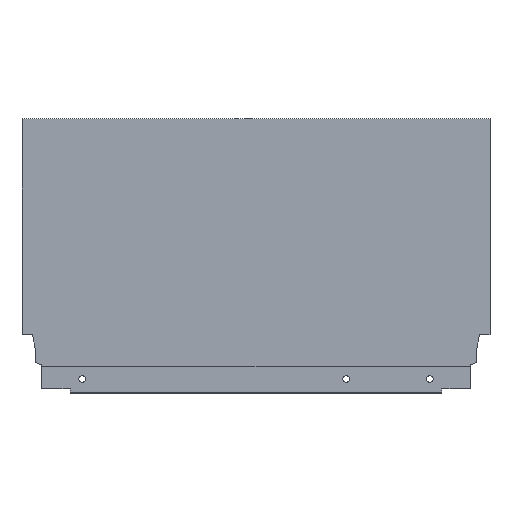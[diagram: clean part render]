
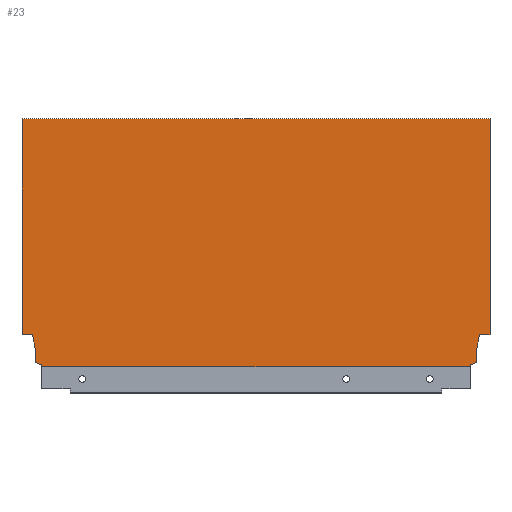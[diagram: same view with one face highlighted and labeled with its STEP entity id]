
A CAD part, top view. The second image highlights one B-rep face of the part: STEP entity #23.
In plain terms, the highlighted planar face has unit normal (0, 0, 1).
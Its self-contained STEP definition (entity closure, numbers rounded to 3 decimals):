
#23 = ADVANCED_FACE ( 'NONE', ( #969 ), #559, .T. ) ;
#139 = EDGE_CURVE ( 'NONE', #646, #650, #1512, .T. ) ;
#141 = EDGE_CURVE ( 'NONE', #654, #662, #1505, .T. ) ;
#143 = EDGE_CURVE ( 'NONE', #662, #663, #1394, .T. ) ;
#144 = EDGE_CURVE ( 'NONE', #650, #654, #1390, .T. ) ;
#145 = EDGE_CURVE ( 'NONE', #663, #645, #1386, .T. ) ;
#146 = EDGE_CURVE ( 'NONE', #645, #644, #1388, .T. ) ;
#147 = EDGE_CURVE ( 'NONE', #646, #668, #1384, .T. ) ;
#148 = EDGE_CURVE ( 'NONE', #644, #651, #1497, .T. ) ;
#149 = EDGE_CURVE ( 'NONE', #670, #664, #1382, .T. ) ;
#150 = EDGE_CURVE ( 'NONE', #664, #649, #1317, .T. ) ;
#152 = EDGE_CURVE ( 'NONE', #649, #656, #1321, .T. ) ;
#154 = EDGE_CURVE ( 'NONE', #656, #668, #790, .T. ) ;
#156 = EDGE_CURVE ( 'NONE', #657, #651, #787, .T. ) ;
#167 = EDGE_CURVE ( 'NONE', #657, #670, #1381, .T. ) ;
#205 = AXIS2_PLACEMENT_3D ( 'NONE', #556, #550, #549 ) ;
#329 = DIRECTION ( 'NONE',  ( 0., 1., 0. ) ) ;
#330 = CARTESIAN_POINT ( 'NONE',  ( -297.996, 1.146, 7.5 ) ) ;
#549 = DIRECTION ( 'NONE',  ( 1., 0., 0. ) ) ;
#550 = DIRECTION ( 'NONE',  ( 0., 0., 1. ) ) ;
#556 = CARTESIAN_POINT ( 'NONE',  ( -311., 0., 7.5 ) ) ;
#559 = PLANE ( 'NONE',  #205 ) ;
#644 = VERTEX_POINT ( 'NONE', #1533 ) ;
#645 = VERTEX_POINT ( 'NONE', #1532 ) ;
#646 = VERTEX_POINT ( 'NONE', #1540 ) ;
#649 = VERTEX_POINT ( 'NONE', #1528 ) ;
#650 = VERTEX_POINT ( 'NONE', #1526 ) ;
#651 = VERTEX_POINT ( 'NONE', #1523 ) ;
#654 = VERTEX_POINT ( 'NONE', #1519 ) ;
#656 = VERTEX_POINT ( 'NONE', #824 ) ;
#657 = VERTEX_POINT ( 'NONE', #823 ) ;
#662 = VERTEX_POINT ( 'NONE', #809 ) ;
#663 = VERTEX_POINT ( 'NONE', #807 ) ;
#664 = VERTEX_POINT ( 'NONE', #799 ) ;
#668 = VERTEX_POINT ( 'NONE', #819 ) ;
#670 = VERTEX_POINT ( 'NONE', #816 ) ;
#771 = VECTOR ( 'NONE', #329, 1000. ) ;
#785 = VECTOR ( 'NONE', #923, 1000. ) ;
#786 = VECTOR ( 'NONE', #921, 1000. ) ;
#787 = LINE ( 'NONE', #922, #786 ) ;
#790 = LINE ( 'NONE', #924, #785 ) ;
#799 = CARTESIAN_POINT ( 'NONE',  ( -302.1, 2.64, 7.5 ) ) ;
#807 = CARTESIAN_POINT ( 'NONE',  ( -8.9, 10.765, 7.5 ) ) ;
#809 = CARTESIAN_POINT ( 'NONE',  ( -7.06, 21.2, 7.5 ) ) ;
#816 = CARTESIAN_POINT ( 'NONE',  ( -297.996, 1.146, 7.5 ) ) ;
#819 = CARTESIAN_POINT ( 'NONE',  ( -311., 21.2, 7.5 ) ) ;
#823 = CARTESIAN_POINT ( 'NONE',  ( -297.996, 0., 7.5 ) ) ;
#824 = CARTESIAN_POINT ( 'NONE',  ( -303.94, 21.2, 7.5 ) ) ;
#880 = CARTESIAN_POINT ( 'NONE',  ( -8.9, 2.64, 7.5 ) ) ;
#881 = DIRECTION ( 'NONE',  ( 0., -1., 0. ) ) ;
#885 = CARTESIAN_POINT ( 'NONE',  ( -8.9, 10.765, 7.5 ) ) ;
#886 = DIRECTION ( 'NONE',  ( 0., -1., 0. ) ) ;
#887 = CARTESIAN_POINT ( 'NONE',  ( 0., 0., 7.5 ) ) ;
#888 = DIRECTION ( 'NONE',  ( -0.174, -0.985, 0. ) ) ;
#889 = CARTESIAN_POINT ( 'NONE',  ( -7.06, 21.2, 7.5 ) ) ;
#894 = DIRECTION ( 'NONE',  ( -1., 0., 0. ) ) ;
#895 = CARTESIAN_POINT ( 'NONE',  ( -13.004, 1.146, 7.5 ) ) ;
#898 = DIRECTION ( 'NONE',  ( 0., -1., 0. ) ) ;
#900 = CARTESIAN_POINT ( 'NONE',  ( 0., 21.2, 7.5 ) ) ;
#901 = DIRECTION ( 'NONE',  ( 1., 0., 0. ) ) ;
#902 = CARTESIAN_POINT ( 'NONE',  ( -311., 164.7, 7.5 ) ) ;
#921 = DIRECTION ( 'NONE',  ( 1., 0., 0. ) ) ;
#922 = CARTESIAN_POINT ( 'NONE',  ( -311., 0., 7.5 ) ) ;
#923 = DIRECTION ( 'NONE',  ( -1., 0., 0. ) ) ;
#924 = CARTESIAN_POINT ( 'NONE',  ( -316., 21.2, 7.5 ) ) ;
#928 = DIRECTION ( 'NONE',  ( -0.174, 0.985, 0. ) ) ;
#929 = CARTESIAN_POINT ( 'NONE',  ( -303.94, 21.2, 7.5 ) ) ;
#932 = DIRECTION ( 'NONE',  ( 0., 1., 0. ) ) ;
#933 = CARTESIAN_POINT ( 'NONE',  ( -302.1, 10.765, 7.5 ) ) ;
#934 = DIRECTION ( 'NONE',  ( -0.94, 0.342, 0. ) ) ;
#935 = CARTESIAN_POINT ( 'NONE',  ( -302.1, 2.64, 7.5 ) ) ;
#937 = DIRECTION ( 'NONE',  ( 0., -1., 0. ) ) ;
#938 = CARTESIAN_POINT ( 'NONE',  ( -311., 0., 7.5 ) ) ;
#940 = DIRECTION ( 'NONE',  ( -0.94, -0.342, 0. ) ) ;
#969 = FACE_OUTER_BOUND ( 'NONE', #1006, .T. ) ;
#1001 = VECTOR ( 'NONE', #928, 1000. ) ;
#1006 = EDGE_LOOP ( 'NONE', ( #1107, #1106, #1108, #1114, #1113, #1118, #1112, #1111, #1110, #1109, #1119, #1120, #1122, #1195 ) ) ;
#1106 = ORIENTED_EDGE ( 'NONE', *, *, #154, .F. ) ;
#1107 = ORIENTED_EDGE ( 'NONE', *, *, #147, .T. ) ;
#1108 = ORIENTED_EDGE ( 'NONE', *, *, #152, .F. ) ;
#1109 = ORIENTED_EDGE ( 'NONE', *, *, #145, .F. ) ;
#1110 = ORIENTED_EDGE ( 'NONE', *, *, #146, .F. ) ;
#1111 = ORIENTED_EDGE ( 'NONE', *, *, #148, .F. ) ;
#1112 = ORIENTED_EDGE ( 'NONE', *, *, #156, .T. ) ;
#1113 = ORIENTED_EDGE ( 'NONE', *, *, #149, .F. ) ;
#1114 = ORIENTED_EDGE ( 'NONE', *, *, #150, .F. ) ;
#1118 = ORIENTED_EDGE ( 'NONE', *, *, #167, .F. ) ;
#1119 = ORIENTED_EDGE ( 'NONE', *, *, #143, .F. ) ;
#1120 = ORIENTED_EDGE ( 'NONE', *, *, #141, .F. ) ;
#1122 = ORIENTED_EDGE ( 'NONE', *, *, #144, .F. ) ;
#1195 = ORIENTED_EDGE ( 'NONE', *, *, #139, .F. ) ;
#1316 = VECTOR ( 'NONE', #934, 1000. ) ;
#1317 = LINE ( 'NONE', #933, #1318 ) ;
#1318 = VECTOR ( 'NONE', #932, 1000. ) ;
#1321 = LINE ( 'NONE', #929, #1001 ) ;
#1380 = VECTOR ( 'NONE', #898, 1000. ) ;
#1381 = LINE ( 'NONE', #330, #771 ) ;
#1382 = LINE ( 'NONE', #935, #1316 ) ;
#1383 = VECTOR ( 'NONE', #940, 1000. ) ;
#1384 = LINE ( 'NONE', #938, #1385 ) ;
#1385 = VECTOR ( 'NONE', #937, 1000. ) ;
#1386 = LINE ( 'NONE', #885, #1387 ) ;
#1387 = VECTOR ( 'NONE', #881, 1000. ) ;
#1388 = LINE ( 'NONE', #880, #1383 ) ;
#1389 = VECTOR ( 'NONE', #888, 1000. ) ;
#1390 = LINE ( 'NONE', #887, #1391 ) ;
#1391 = VECTOR ( 'NONE', #886, 1000. ) ;
#1394 = LINE ( 'NONE', #889, #1389 ) ;
#1497 = LINE ( 'NONE', #895, #1380 ) ;
#1505 = LINE ( 'NONE', #900, #1516 ) ;
#1512 = LINE ( 'NONE', #902, #1513 ) ;
#1513 = VECTOR ( 'NONE', #901, 1000. ) ;
#1516 = VECTOR ( 'NONE', #894, 1000. ) ;
#1519 = CARTESIAN_POINT ( 'NONE',  ( 0., 21.2, 7.5 ) ) ;
#1523 = CARTESIAN_POINT ( 'NONE',  ( -13.004, 0., 7.5 ) ) ;
#1526 = CARTESIAN_POINT ( 'NONE',  ( 0., 164.7, 7.5 ) ) ;
#1528 = CARTESIAN_POINT ( 'NONE',  ( -302.1, 10.765, 7.5 ) ) ;
#1532 = CARTESIAN_POINT ( 'NONE',  ( -8.9, 2.64, 7.5 ) ) ;
#1533 = CARTESIAN_POINT ( 'NONE',  ( -13.004, 1.146, 7.5 ) ) ;
#1540 = CARTESIAN_POINT ( 'NONE',  ( -311., 164.7, 7.5 ) ) ;
